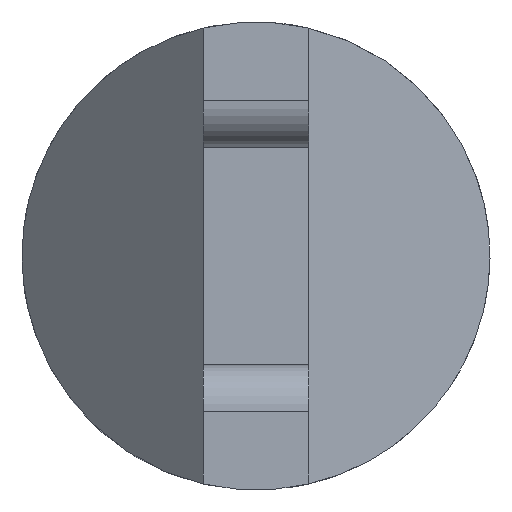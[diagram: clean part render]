
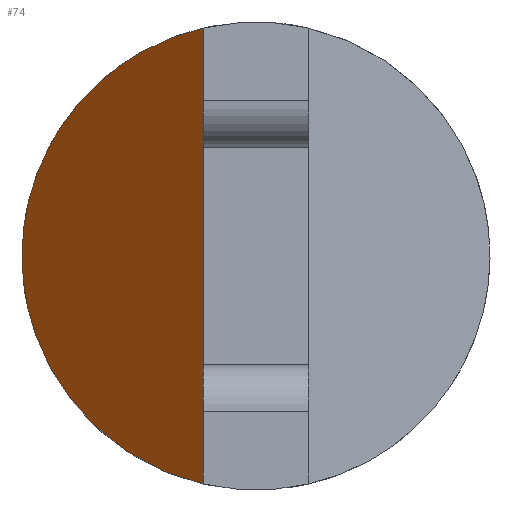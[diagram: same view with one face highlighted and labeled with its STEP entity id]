
A CAD part, front view. The second image highlights one B-rep face of the part: STEP entity #74.
In plain terms, the highlighted planar face has unit normal (-0.707, -0.707, 0).
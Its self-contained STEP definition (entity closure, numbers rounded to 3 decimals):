
#49=ELLIPSE('',#323,14.142,10.);
#74=ADVANCED_FACE('',(#99),#87,.T.);
#87=PLANE('',#335);
#99=FACE_OUTER_BOUND('',#117,.T.);
#117=EDGE_LOOP('',(#197,#198));
#197=ORIENTED_EDGE('',*,*,#242,.F.);
#198=ORIENTED_EDGE('',*,*,#256,.F.);
#215=VERTEX_POINT('',#451);
#216=VERTEX_POINT('',#453);
#242=EDGE_CURVE('',#215,#216,#274,.T.);
#256=EDGE_CURVE('',#216,#215,#49,.T.);
#274=LINE('',#452,#296);
#296=VECTOR('',#361,1.);
#323=AXIS2_PLACEMENT_3D('',#479,#388,#389);
#335=AXIS2_PLACEMENT_3D('',#497,#416,#417);
#361=DIRECTION('',(0.,0.,-1.));
#388=DIRECTION('',(0.707,0.707,0.));
#389=DIRECTION('',(-0.707,0.707,0.));
#416=DIRECTION('',(-0.707,-0.707,0.));
#417=DIRECTION('',(0.,0.,1.));
#451=CARTESIAN_POINT('',(-2.25,-8.,9.744));
#452=CARTESIAN_POINT('',(-2.25,-8.,-9.744));
#453=CARTESIAN_POINT('',(-2.25,-8.,-9.744));
#479=CARTESIAN_POINT('',(0.,-10.25,0.));
#497=CARTESIAN_POINT('',(-2.25,-8.,0.));
